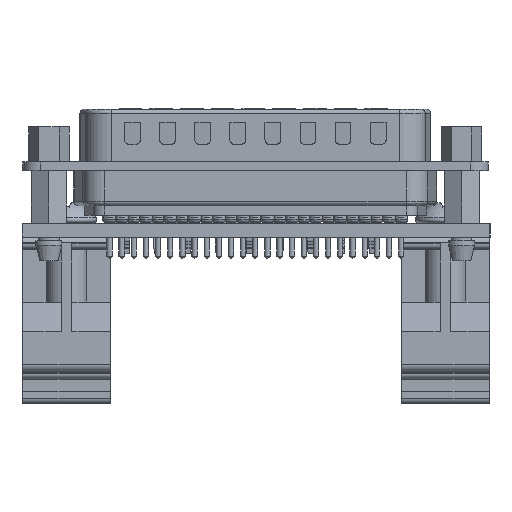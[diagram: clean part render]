
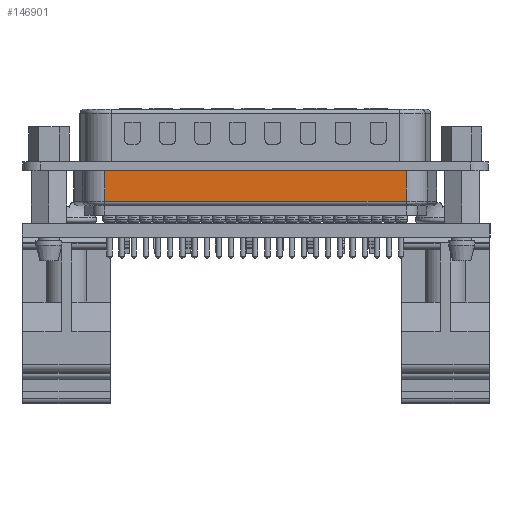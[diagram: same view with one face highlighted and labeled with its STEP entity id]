
A CAD part, left-side view. The second image highlights one B-rep face of the part: STEP entity #146901.
In plain terms, the highlighted planar face has unit normal (-1, 0, 0) as drawn and (0, 0, 1) by its records, which use the part's own axes.
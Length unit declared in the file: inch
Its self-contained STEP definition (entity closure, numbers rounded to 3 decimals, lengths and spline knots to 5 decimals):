
#18500 = LINE ( 'NONE', #72015, #146183 ) ;
#22430 = VERTEX_POINT ( 'NONE', #75640 ) ;
#26203 = VERTEX_POINT ( 'NONE', #65691 ) ;
#45106 = ORIENTED_EDGE ( 'NONE', *, *, #162621, .T. ) ;
#45645 = DIRECTION ( 'NONE',  ( 1., 0., 0. ) ) ;
#48512 = CARTESIAN_POINT ( 'NONE',  ( -0.67635, -0.28543, 0.21102 ) ) ;
#59533 = VECTOR ( 'NONE', #82287, 39.37008 ) ;
#64850 = VECTOR ( 'NONE', #183845, 39.37008 ) ;
#65691 = CARTESIAN_POINT ( 'NONE',  ( 0.67635, -0.14764, 0.21102 ) ) ;
#69127 = CARTESIAN_POINT ( 'NONE',  ( -0.67635, -0.21654, 0.21102 ) ) ;
#72015 = CARTESIAN_POINT ( 'NONE',  ( 0., -0.14764, 0.21102 ) ) ;
#72184 = ORIENTED_EDGE ( 'NONE', *, *, #127533, .T. ) ;
#72600 = ORIENTED_EDGE ( 'NONE', *, *, #147063, .T. ) ;
#75640 = CARTESIAN_POINT ( 'NONE',  ( -0.67635, -0.14764, 0.21102 ) ) ;
#76757 = DIRECTION ( 'NONE',  ( 1., 0., 0. ) ) ;
#76947 = AXIS2_PLACEMENT_3D ( 'NONE', #48512, #162432, #76757 ) ;
#82233 = CARTESIAN_POINT ( 'NONE',  ( 0., -0.28543, 0.21102 ) ) ;
#82287 = DIRECTION ( 'NONE',  ( 0., -1., 0. ) ) ;
#90828 = EDGE_LOOP ( 'NONE', ( #45106, #114617, #72600, #72184 ) ) ;
#99989 = FACE_OUTER_BOUND ( 'NONE', #90828, .T. ) ;
#109792 = CARTESIAN_POINT ( 'NONE',  ( 0.67635, -0.28543, 0.21102 ) ) ;
#112362 = CARTESIAN_POINT ( 'NONE',  ( -0.67635, -0.28543, 0.21102 ) ) ;
#114617 = ORIENTED_EDGE ( 'NONE', *, *, #126454, .F. ) ;
#117549 = PLANE ( 'NONE',  #76947 ) ;
#126454 = EDGE_CURVE ( 'NONE', #22430, #26203, #18500, .T. ) ;
#127533 = EDGE_CURVE ( 'NONE', #161855, #154313, #179241, .T. ) ;
#127720 = VECTOR ( 'NONE', #172210, 39.37008 ) ;
#146183 = VECTOR ( 'NONE', #45645, 39.37008 ) ;
#146901 = ADVANCED_FACE ( 'NONE', ( #99989 ), #117549, .T. ) ;
#147063 = EDGE_CURVE ( 'NONE', #22430, #161855, #169217, .T. ) ;
#154313 = VERTEX_POINT ( 'NONE', #109792 ) ;
#161135 = LINE ( 'NONE', #167561, #64850 ) ;
#161855 = VERTEX_POINT ( 'NONE', #112362 ) ;
#162432 = DIRECTION ( 'NONE',  ( 0., 0., 1. ) ) ;
#162621 = EDGE_CURVE ( 'NONE', #154313, #26203, #161135, .T. ) ;
#167561 = CARTESIAN_POINT ( 'NONE',  ( 0.67635, -0.21654, 0.21102 ) ) ;
#169217 = LINE ( 'NONE', #69127, #59533 ) ;
#172210 = DIRECTION ( 'NONE',  ( 1., 0., 0. ) ) ;
#179241 = LINE ( 'NONE', #82233, #127720 ) ;
#183845 = DIRECTION ( 'NONE',  ( 0., 1., 0. ) ) ;
